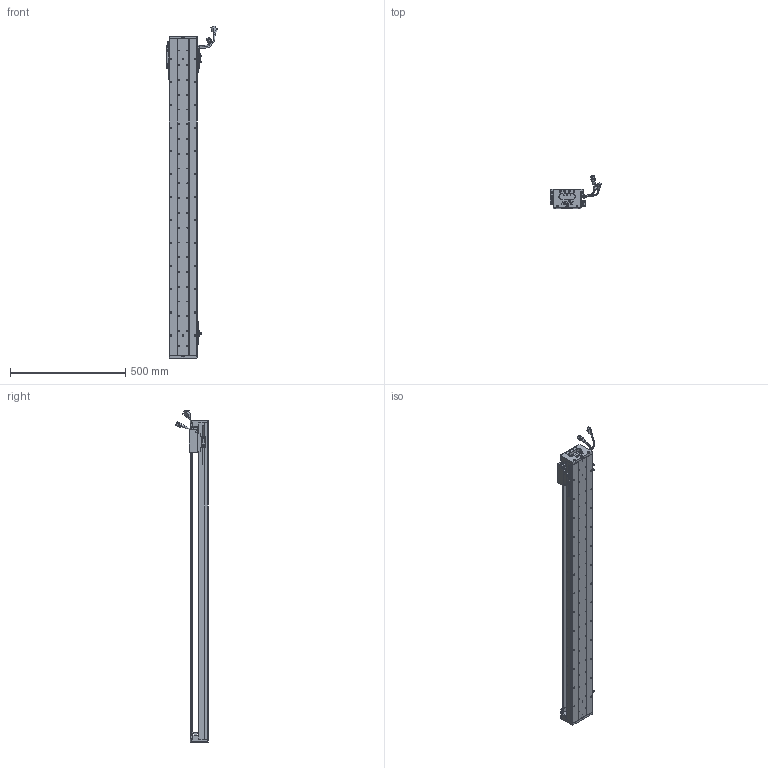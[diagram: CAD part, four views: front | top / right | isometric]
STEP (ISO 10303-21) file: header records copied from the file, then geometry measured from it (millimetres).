
FILE_DESCRIPTION (( 'STEP AP203' ), '1' );
FILE_NAME ('Z1-RY120D-1-L500-B-K.SLDASM_1200.step', '2021-05-17T03:46:42', ( '盈信电脑' ), ( '东莞市道滘镇水果街19号' ), 'SwSTEP 2.0', 'SolidWorks 2016', '' );
FILE_SCHEMA (( 'CONFIG_CONTROL_DESIGN' ));
Length unit declared in the file: millimetre
Products named in the file (37): SHIELDPLATE; HOLDER0; 672嫖萇羲壽假蚾釱; PSLH080_PSLF2; Z1-RY120-500-倰第菁釱_1200; SCREW-M1.6-2; 140蚥薯蝶輸; SCREW-M1.7; HARNESS-Part-2; Z-RY120D詩湍奻揤裔; LABEL-Part-1; 覜茼ん672; RY100FB-遵嫖萇覜茼え; COVER; SEAL-Part-1; SCALE-Part-2; SCREW-M1.6-1; HARNESS-Part-1; 120-Z-臏賑輸盄裔(21遴); SCALE; COVER-Part-1; Z-RY120D詩湍狟揤裔; HARNESS; SCREW-M1.7-1; Z1-RY120-L500詩湍100mm遵_1200; 140雄赽晤鎢ん堤盄; 080黍杅芛假蚾釱21遴; LABEL; SEAL; PBU_SHEET; Z-120詩湍傷裔啣; SCREW-M1.6-3; Z1-RY120铝滑块（21款）; 榋妏寠巭燃_暯_M2_2; SCREW-M1.6; Z1-RY120D-1-L500-B-K.SLDASM_1200; SCALE-Part-1
Assembly tree (43 placements, depth 4):
  Z1-RY120D-1-L500-B-K.SLDASM_1200
    Z1-RY120-500-倰第菁釱_1200
    覜茼ん672  x3
    672嫖萇羲壽假蚾釱  x2
    Z1-RY120铝滑块（21款）
    PSLH080_PSLF2
      SCALE
        SCALE-Part-1
        SCALE-Part-2
      HARNESS
        HARNESS-Part-1
        HARNESS-Part-2
      LABEL
        LABEL-Part-1
      COVER
        COVER-Part-1
      SEAL
        SEAL-Part-1
      榋妏寠巭燃_暯_M2_2
      SHIELDPLATE
      SCREW-M1.7
      SCREW-M1.7-1
      PBU_SHEET
      SCREW-M1.6
      SCREW-M1.6-1
      SCREW-M1.6-2
      SCREW-M1.6-3
      HOLDER0
    080黍杅芛假蚾釱21遴
    120-Z-臏賑輸盄裔(21遴)
    140雄赽晤鎢ん堤盄
    140蚥薯蝶輸  x2
    RY100FB-遵嫖萇覜茼え
    Z-120詩湍傷裔啣  x2
    Z-RY120D詩湍奻揤裔  x2
    Z-RY120D詩湍狟揤裔  x2
    Z1-RY120-L500詩湍100mm遵_1200
Bounding box: 222.88 x 140.94 x 1438.99 mm (x, y, z)
Volume: 3456843.9 mm3; surface area: 1223458.1 mm2
Topology: 38 solids, 38 shells, 2901 faces, 7958 edges, 5028 vertices
Faces by surface type: cylinder 1358, plane 1135, cone 286, torus 69, bspline 53
Entity records: 89651 total; most frequent: CARTESIAN_POINT 25032, ORIENTED_EDGE 12868, DIRECTION 12352, EDGE_CURVE 6434, AXIS2_PLACEMENT_3D 4510, VERTEX_POINT 4148, LINE 3332, VECTOR 3332
